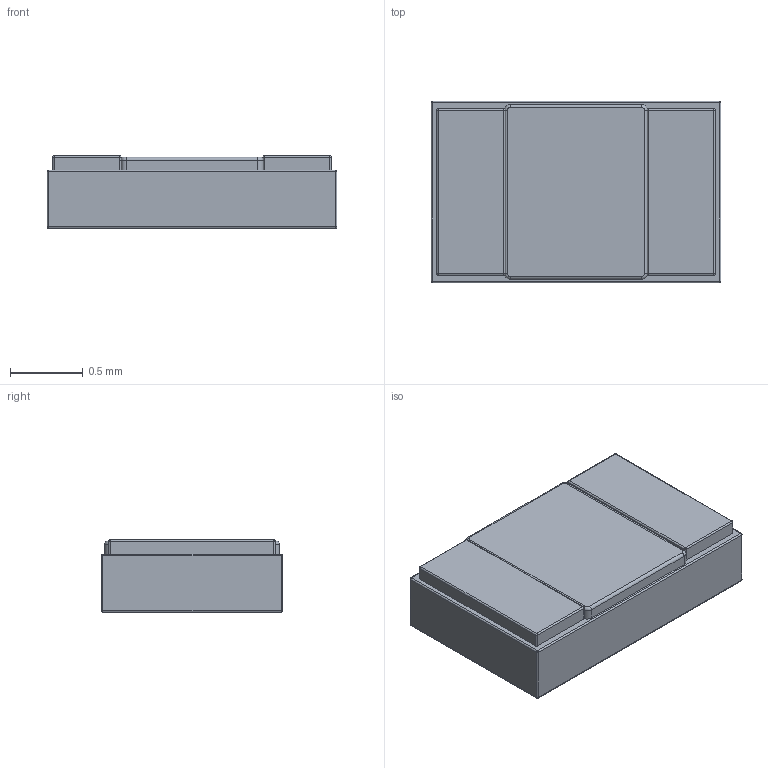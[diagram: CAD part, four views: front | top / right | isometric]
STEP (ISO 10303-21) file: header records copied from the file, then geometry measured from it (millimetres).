
FILE_DESCRIPTION(('STEP AP203'), '1');
FILE_NAME('R2-105-0806', '', ('UNSPECIFIED'), ('UNSPECIFIED'), 'ASCON STEP Converter 1.6', 'ASCON Math Kernel', '');
FILE_SCHEMA(('CONFIG_CONTROL_DESIGN'));
Length unit declared in the file: millimetre
Bounding box: 2 x 1.25 x 0.5 mm (x, y, z)
Volume: 1.2 mm3; surface area: 13.3 mm2
Topology: 4 solids, 5 shells, 99 faces, 227 edges, 122 vertices
Faces by surface type: cylinder 40, plane 39, sphere 16, torus 4
Entity records: 3477 total; most frequent: DIRECTION 495, CARTESIAN_POINT 433, ORIENTED_EDGE 422, EDGE_CURVE 211, AXIS2_PLACEMENT_3D 184, LINE 127, VECTOR 127, VERTEX_POINT 122
